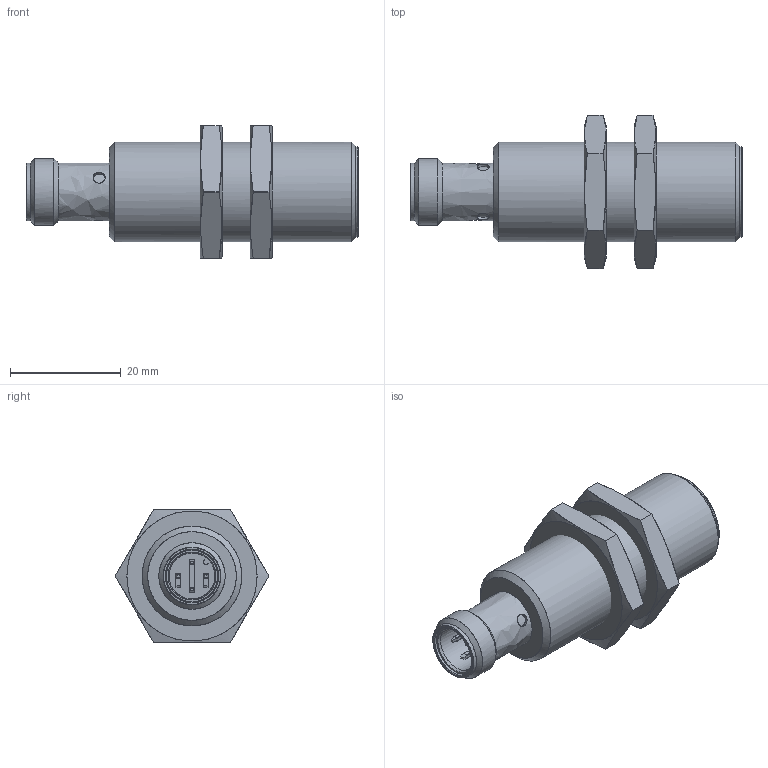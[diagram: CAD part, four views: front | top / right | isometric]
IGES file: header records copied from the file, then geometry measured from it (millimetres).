
Start section: C
Global section: file name: IR18.xxxx-F60.xxxx.7BO.igs; native system:  By UGS Corp.; preprocessor: XPlus GENERIC/IGES 3.0; author: Author; organization: Title; date: 20150916.084651; units: millimetre
Bounding box: 59.95 x 27.71 x 24 mm (x, y, z)
Surface area: 6040.2 mm2 (no closed solid volume)
Topology: 0 solids, 0 shells, 143 faces, 796 edges, 796 vertices
Faces by surface type: bspline 143
